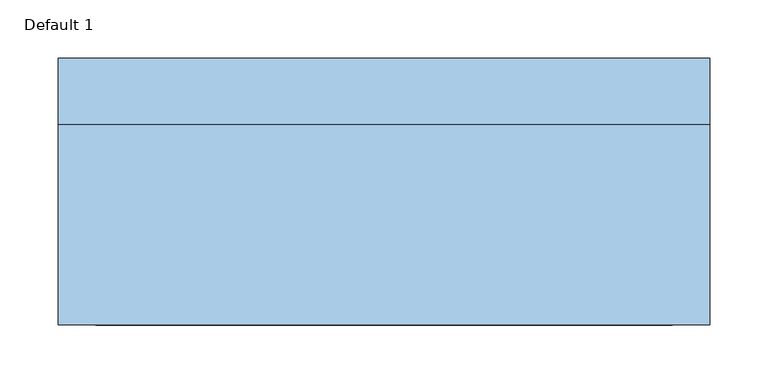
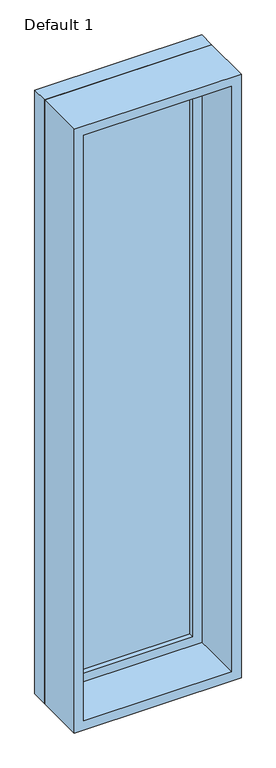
"""IFC4 building model written with IfcOpenShell, lengths in millimetres: window geometry, Planitar-Fixed : Default 1."""

from ifc_helpers import new_model, si_unit, frame, origin, place, context, project, spatial, polyline, outline, extrude, source, transform, mapped, element, save


def default_1_d99bf27f(model_context):
    return source(origin(), model_context, "Body", "SweptSolid", [
        extrude(outline(polyline([(3029.0, -260.4), (933.4, -260.4), (933.4, 260.4), (3029.0, 260.4), (3029.0, -260.4)]), holes=[polyline([(2985.0, -216.4), (2985.0, 216.4), (977.4, 216.4), (977.4, -216.4), (2985.0, -216.4)])]), frame((0.0, 70.6, 0.0), z_axis=(0.0, 1.0, 0.0), x_axis=(0.0, 0.0, 1.0)), (0.0, 0.0, 1.0), 44.0),
        extrude(outline(polyline([(3048.0, -279.4), (914.4, -279.4), (914.4, 279.4), (3048.0, 279.4), (3048.0, -279.4)]), holes=[polyline([(3029.0, -260.4), (3029.0, 260.4), (933.4, 260.4), (933.4, -260.4), (3029.0, -260.4)])]), frame((0.0, 70.6, 0.0), z_axis=(0.0, 1.0, 0.0), x_axis=(0.0, 0.0, 1.0)), (0.0, 0.0, 1.0), 56.7),
        extrude(outline(polyline([(3048.0, -279.4), (914.4, -279.4), (914.4, 279.4), (3048.0, 279.4), (3048.0, -279.4)]), holes=[polyline([(3016.0, -247.4), (3016.0, 247.4), (946.4, 247.4), (946.4, -247.4), (3016.0, -247.4)])]), frame((0.0, -101.3, 0.0), z_axis=(0.0, 1.0, 0.0), x_axis=(0.0, 0.0, 1.0)), (0.0, 0.0, 1.0), 171.9),
        extrude(outline(polyline([(-216.4, 98.6), (216.4, 98.6), (216.4, 86.6), (-216.4, 86.6), (-216.4, 98.6)])), frame((0.0, 0.0, 977.4), z_axis=(0.0, 0.0, 1.0), x_axis=(1.0, 0.0, 0.0)), (0.0, 0.0, 1.0), 2007.6),
    ])


if __name__ == "__main__":
    model = new_model("IFC4")
    model_context = context("Model", 3, world=origin())
    ifc_project = project(units=[si_unit("LENGTHUNIT", "METRE", prefix="MILLI")], contexts=[model_context])
    site = spatial("IfcSite", under=ifc_project)
    building = spatial("IfcBuilding", under=site)
    placement = place(None, origin())
    default_1_shape = default_1_d99bf27f(model_context)
    element("IfcWindow", 1, ObjectType="Planitar-Fixed : Default 1", at=placement, inside=building, context=model_context, shape_type="MappedRepresentation", body=[
        mapped(default_1_shape, transform((0.0, 0.0, 0.0), x_axis=(1.0, 0.0, 0.0), y_axis=(0.0, 1.0, 0.0), z_axis=(0.0, 0.0, 1.0))),
    ])
    save(model, "model.ifc")
